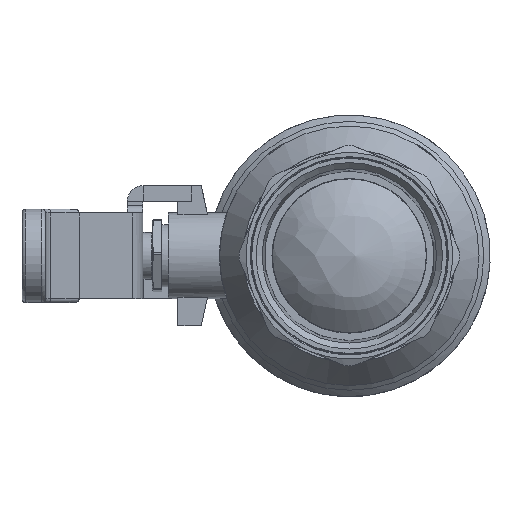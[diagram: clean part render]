
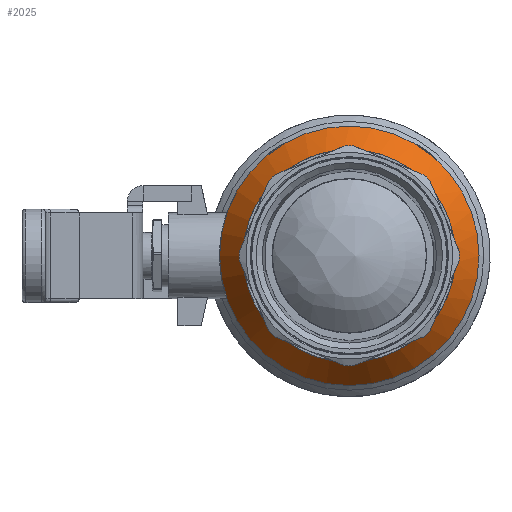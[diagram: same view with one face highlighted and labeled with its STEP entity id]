
A CAD part, left-side view. The second image highlights one B-rep face of the part: STEP entity #2025.
In plain terms, the highlighted conical face has half-angle 35 degrees and reference radius 32.695 mm.
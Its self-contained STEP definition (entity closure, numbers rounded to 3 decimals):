
#1998=CARTESIAN_POINT('',(-13.035,0.,0.));
#1999=DIRECTION('',(1.0,0.,0.));
#2000=DIRECTION('',(0.0,0.0,-1.0));
#2001=AXIS2_PLACEMENT_3D('',#1998,#1999,#2000);
#2002=CONICAL_SURFACE('',#2001,32.695,35.);
#2003=CARTESIAN_POINT('',(-20.811,27.25,0.0));
#2004=VERTEX_POINT('',#2003);
#2005=CARTESIAN_POINT('',(-20.811,0.0,0.));
#2006=DIRECTION('',(1.0,0.0,0.0));
#2007=DIRECTION('',(0.0,1.0,0.0));
#2008=AXIS2_PLACEMENT_3D('',#2005,#2006,#2007);
#2009=CIRCLE('',#2008,27.25);
#2010=EDGE_CURVE('',#2004,#2004,#2009,.T.);
#2011=ORIENTED_EDGE('',*,*,#2010,.T.);
#2012=EDGE_LOOP('',(#2011));
#2013=FACE_OUTER_BOUND('',#2012,.T.);
#2014=CARTESIAN_POINT('',(-12.171,33.3,0.0));
#2015=VERTEX_POINT('',#2014);
#2016=CARTESIAN_POINT('',(-12.171,0.,0.));
#2017=DIRECTION('',(1.0,0.0,0.0));
#2018=DIRECTION('',(0.0,1.0,0.0));
#2019=AXIS2_PLACEMENT_3D('',#2016,#2017,#2018);
#2020=CIRCLE('',#2019,33.3);
#2021=EDGE_CURVE('',#2015,#2015,#2020,.T.);
#2022=ORIENTED_EDGE('',*,*,#2021,.F.);
#2023=EDGE_LOOP('',(#2022));
#2024=FACE_BOUND('',#2023,.T.);
#2025=ADVANCED_FACE('',(#2013,#2024),#2002,.T.);
